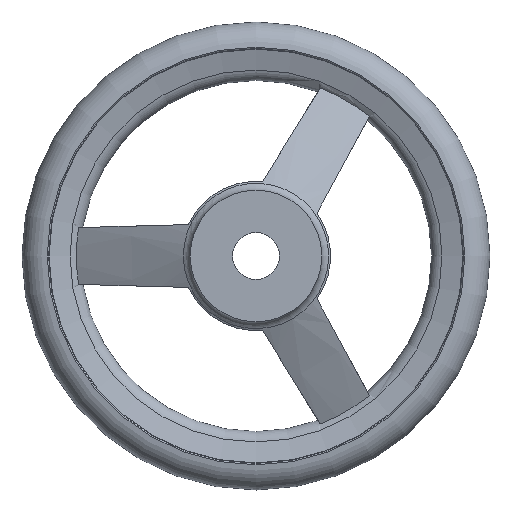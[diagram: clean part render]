
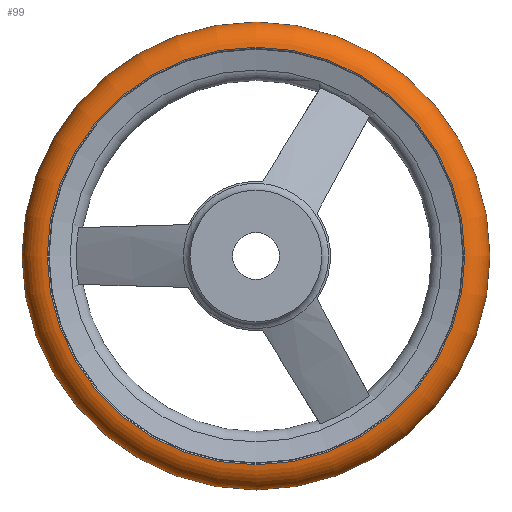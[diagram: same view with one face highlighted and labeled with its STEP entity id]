
A CAD part, left-side view. The second image highlights one B-rep face of the part: STEP entity #99.
In plain terms, the highlighted toroidal (fillet/blend) face has major radius 71 mm and minor radius 9 mm.
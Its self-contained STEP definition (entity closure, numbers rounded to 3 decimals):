
#99 = ADVANCED_FACE( '', ( #170, #171, #172 ), #173, .T. );
#170 = FACE_BOUND( '', #255, .T. );
#171 = FACE_OUTER_BOUND( '', #256, .T. );
#172 = FACE_OUTER_BOUND( '', #257, .T. );
#173 = TOROIDAL_SURFACE( '', #258, 71., 9. );
#255 = VERTEX_LOOP( '', #461 );
#256 = EDGE_LOOP( '', ( #462 ) );
#257 = EDGE_LOOP( '', ( #463 ) );
#258 = AXIS2_PLACEMENT_3D( '', #464, #465, #466 );
#461 = VERTEX_POINT( '', #555 );
#462 = ORIENTED_EDGE( '', *, *, #556, .T. );
#463 = ORIENTED_EDGE( '', *, *, #544, .F. );
#464 = CARTESIAN_POINT( '', ( 43., 0., 0. ) );
#465 = DIRECTION( '', ( -1., 0., 0. ) );
#466 = DIRECTION( '', ( 0., -1., 0. ) );
#544 = EDGE_CURVE( '', #644, #644, #645, .T. );
#555 = CARTESIAN_POINT( '', ( 43., -80., 0. ) );
#556 = EDGE_CURVE( '', #662, #662, #663, .T. );
#644 = VERTEX_POINT( '', #987 );
#645 = CIRCLE( '', #988, 71.375 );
#662 = VERTEX_POINT( '', #1025 );
#663 = CIRCLE( '', #1026, 71.375 );
#987 = CARTESIAN_POINT( '', ( 34.008, -71.375, 0. ) );
#988 = AXIS2_PLACEMENT_3D( '', #1102, #1103, #1104 );
#1025 = CARTESIAN_POINT( '', ( 51.992, -71.375, 0. ) );
#1026 = AXIS2_PLACEMENT_3D( '', #1125, #1126, #1127 );
#1102 = CARTESIAN_POINT( '', ( 34.008, 0., 0. ) );
#1103 = DIRECTION( '', ( -1., 0., 0. ) );
#1104 = DIRECTION( '', ( 0., -1., 0. ) );
#1125 = CARTESIAN_POINT( '', ( 51.992, 0., 0. ) );
#1126 = DIRECTION( '', ( -1., 0., 0. ) );
#1127 = DIRECTION( '', ( 0., -1., 0. ) );
